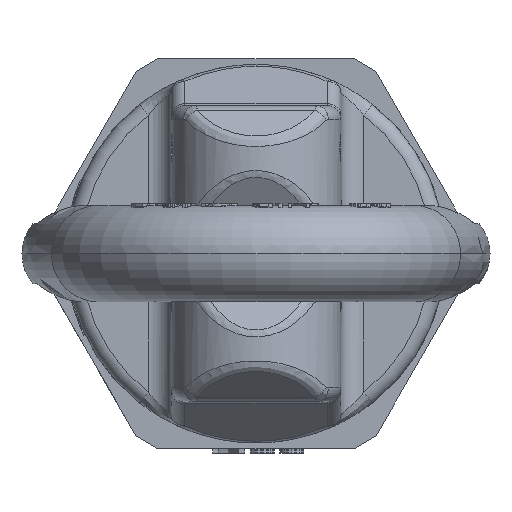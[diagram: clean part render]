
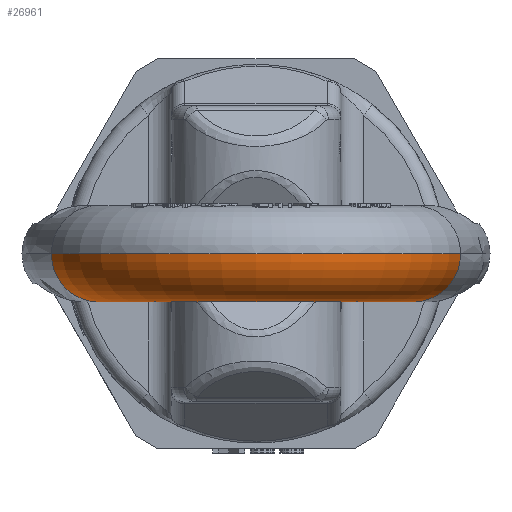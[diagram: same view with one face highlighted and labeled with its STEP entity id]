
A CAD part, left-side view. The second image highlights one B-rep face of the part: STEP entity #26961.
In plain terms, the highlighted toroidal (fillet/blend) face has major radius 35.5 mm and minor radius 10.5 mm.
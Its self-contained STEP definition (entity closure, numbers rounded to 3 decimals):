
#21731=CARTESIAN_POINT('',(-105.,0.,0.));
#21732=DIRECTION('',(0.,0.,1.));
#21733=DIRECTION('',(-0.246,0.969,0.));
#21734=AXIS2_PLACEMENT_3D('',#21731,#21732,#21733);
#22919=CARTESIAN_POINT('',(-113.738,-34.408,0.));
#22920=DIRECTION('',(0.969,-0.246,0.));
#22921=DIRECTION('',(-0.246,-0.969,0.));
#22922=AXIS2_PLACEMENT_3D('',#22919,#22920,#22921);
#23349=CARTESIAN_POINT('',(-113.738,34.408,0.));
#23350=DIRECTION('',(-0.969,-0.246,0.));
#23351=DIRECTION('',(-0.246,0.969,0.));
#23352=AXIS2_PLACEMENT_3D('',#23349,#23350,#23351);
#23354=CARTESIAN_POINT('',(-105.,0.,0.));
#23355=DIRECTION('',(0.,0.,1.));
#23356=DIRECTION('',(-0.246,0.969,0.));
#23357=AXIS2_PLACEMENT_3D('',#23354,#23355,#23356);
#25541=CARTESIAN_POINT('',(-111.154,24.231,0.));
#25542=CARTESIAN_POINT('',(-116.323,44.585,0.));
#25543=VERTEX_POINT('',#25541);
#25544=VERTEX_POINT('',#25542);
#25545=CARTESIAN_POINT('',(-111.154,-24.231,0.));
#25546=CARTESIAN_POINT('',(-116.323,-44.585,0.));
#25547=VERTEX_POINT('',#25545);
#25548=VERTEX_POINT('',#25546);
#26950=CARTESIAN_POINT('',(-105.,0.,0.));
#26951=DIRECTION('',(0.,0.,1.));
#26952=DIRECTION('',(0.246,-0.969,0.));
#26953=AXIS2_PLACEMENT_3D('',#26950,#26951,#26952);
#26954=TOROIDAL_SURFACE('',#26953,35.5,10.5);
#26955=ORIENTED_EDGE('',*,*,#26746,.F.);
#26956=ORIENTED_EDGE('',*,*,#26383,.T.);
#26957=ORIENTED_EDGE('',*,*,#26780,.T.);
#26958=ORIENTED_EDGE('',*,*,#26380,.F.);
#26959=EDGE_LOOP('',(#26955,#26956,#26957,#26958));
#26960=FACE_OUTER_BOUND('',#26959,.F.);
#26961=ADVANCED_FACE('',(#26960),#26954,.T.);
#21735=CIRCLE('',#21734,25.);
#22923=CIRCLE('',#22922,10.5);
#23353=CIRCLE('',#23352,10.5);
#23358=CIRCLE('',#23357,46.);
#26380=EDGE_CURVE('',#25543,#25547,#21735,.T.);
#26383=EDGE_CURVE('',#25544,#25548,#23358,.T.);
#26746=EDGE_CURVE('',#25544,#25543,#23353,.T.);
#26780=EDGE_CURVE('',#25548,#25547,#22923,.T.);
